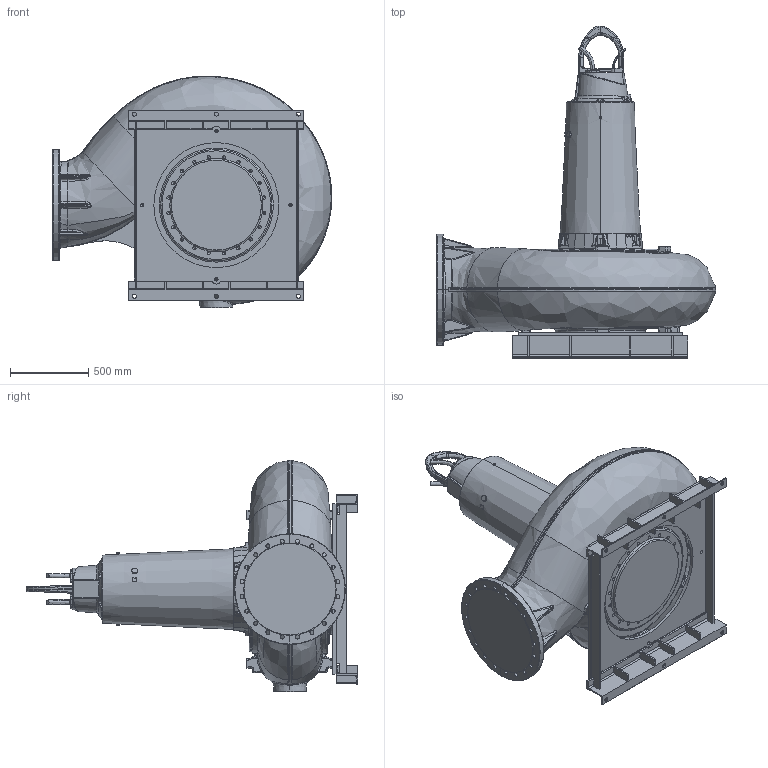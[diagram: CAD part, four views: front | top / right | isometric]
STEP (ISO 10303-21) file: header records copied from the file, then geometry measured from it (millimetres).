
FILE_DESCRIPTION (( 'STEP AP214' ), '1' );
FILE_NAME ('PE5_XFP501U-SK3_DRY_A_NG2.STEP', '2017-03-14T09:33:54', ( '' ), ( '' ), 'SwSTEP 2.0', 'SolidWorks 2017', '' );
FILE_SCHEMA (( 'AUTOMOTIVE_DESIGN' ));
Length unit declared in the file: millimetre
Products named in the file (1): PE5_XFP501U-SK3_DRY_A_NG2
Bounding box: 1788.14 x 2122.97 x 1482.92 mm (x, y, z)
Volume: 1013030672.8 mm3; surface area: 10820816.3 mm2
Topology: 3 solids, 3 shells, 2160 faces, 5444 edges, 3233 vertices
Faces by surface type: bspline 759, cylinder 536, plane 461, cone 189, torus 119, sphere 96
Entity records: 151492 total; most frequent: CARTESIAN_POINT 83155, ORIENTED_EDGE 10630, DIRECTION 7500, EDGE_CURVE 5315, VERTEX_POINT 3207, AXIS2_PLACEMENT_3D 2938, EDGE_LOOP 2314, UNCERTAINTY_MEASURE_WITH_UNIT 2165
